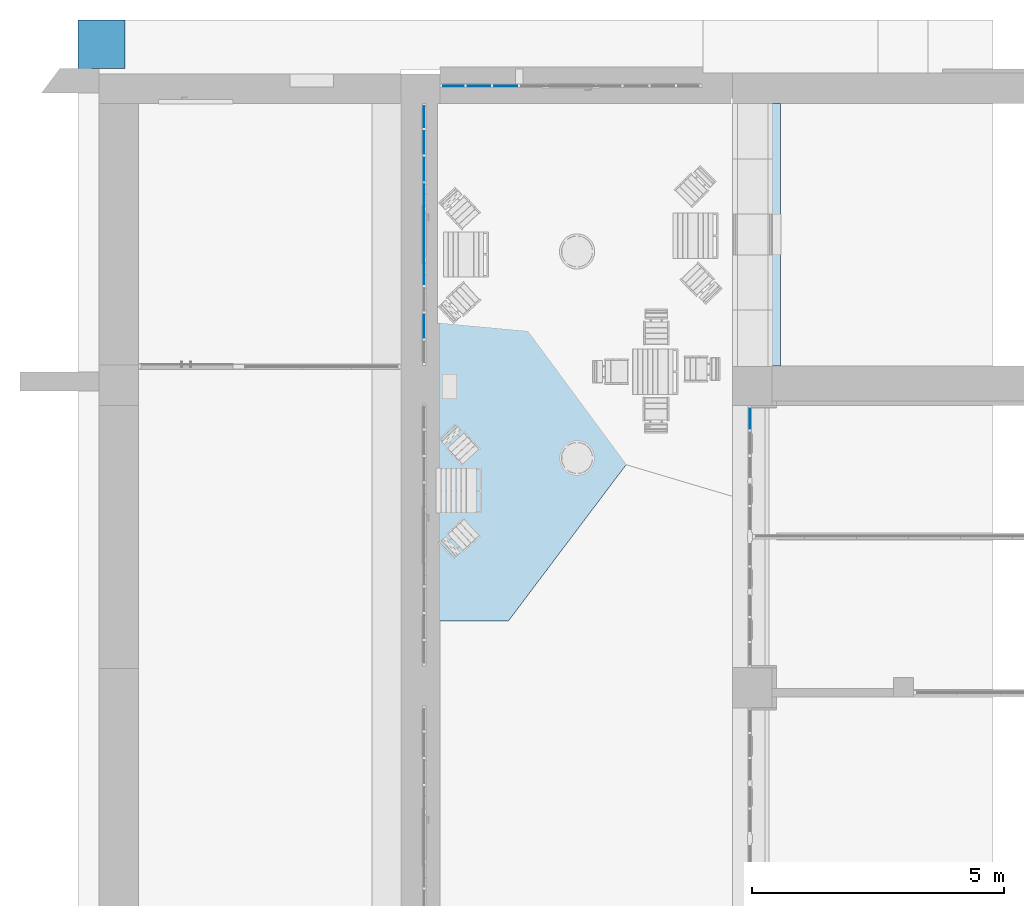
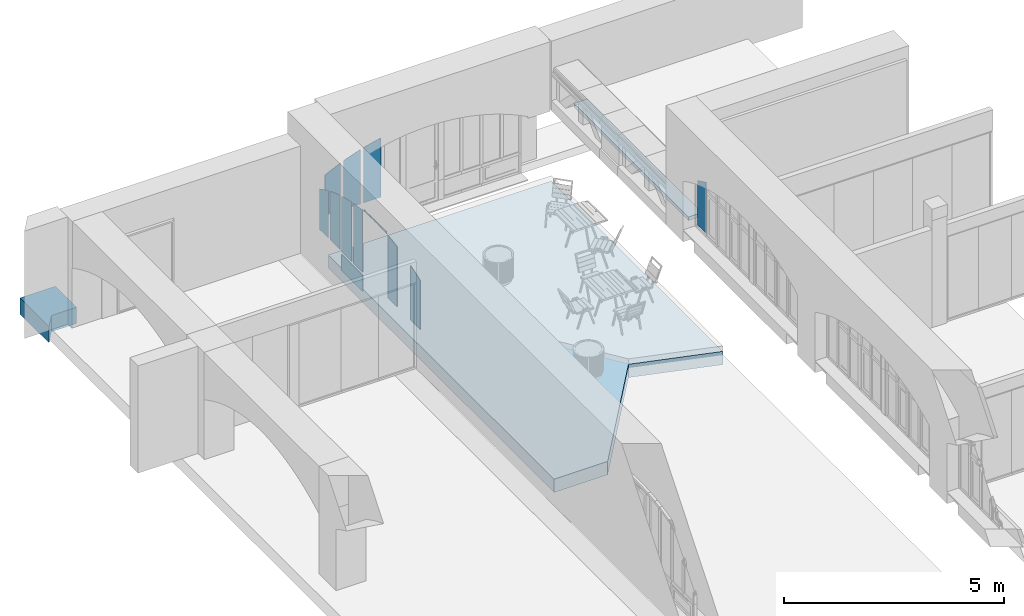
# One storey, part 66 of 88: 12 plates, 3 slabs, 3 openings, 3 elements without a shape of their own.
"""IFC2X3 building model written with IfcOpenShell, lengths in millimetres."""

import ifcopenshell
import ifcopenshell.guid

model = None  # the IFC model being written
_history = None  # IfcOwnerHistory: only IFC2X3 demands one
_inside = {}  # id of a spatial element -> (the spatial element, [elements in it])
_under = {}  # id of a project, library or spatial element -> (it, [spatial elements below it])
_declared = {}  # id of a project -> (the project, [libraries it declares])
_typed = {}  # id of a type object -> (the type object, [elements of that type])
_made_of = {}  # id of a material, layer set ... -> (it, [elements and type objects made of it])


def new_model(schema):
    """Start an empty IFC model of exactly this schema.

    Asked for "IFC4X3", IfcOpenShell would pick the latest addendum, in which some entities
    have other attributes; the version numbers below select the first issue.
    IFC2X3 requires an IfcOwnerHistory on every rooted entity: one is made here for all.
    """
    global model, _history
    if schema == "IFC4X3":
        model = ifcopenshell.file(schema_version=(4, 3, 0, 0))
    else:
        model = ifcopenshell.file(schema=schema)
    _inside.clear()
    _under.clear()
    _declared.clear()
    _typed.clear()
    _made_of.clear()
    _history = None
    if model.schema == "IFC2X3":
        org = make("IfcOrganization", Name="unknown")
        user = make(
            "IfcPersonAndOrganization",
            ThePerson=make("IfcPerson", FamilyName="unknown"),
            TheOrganization=org,
        )
        app = make(
            "IfcApplication",
            ApplicationDeveloper=org,
            Version="unknown",
            ApplicationFullName="unknown",
            ApplicationIdentifier="unknown",
        )
        _history = make(
            "IfcOwnerHistory",
            OwningUser=user,
            OwningApplication=app,
            ChangeAction="ADDED",
            CreationDate=0,
        )
    return model


def make(cls, **values):
    """One entity of the class cls with the attributes given. An attribute that is None is left unset."""
    return model.create_entity(
        cls, **{name: value for name, value in values.items() if value is not None}
    )


def entity(cls, *values):
    """Any entity or typed value of the class cls, its attributes in the order of the schema. None: left unset."""
    e = model.create_entity(cls)
    for i, value in enumerate(values):
        if value is not None:
            e[i] = value
    return e


def rooted(cls, **values):
    """An entity with a GlobalId (a new one), such as an element, a storey or a relation."""
    return make(cls, GlobalId=ifcopenshell.guid.new(), OwnerHistory=_history, **values)


def si_unit(unit_type, name, prefix=None):
    """IfcSIUnit, for example si_unit("LENGTHUNIT", "METRE", prefix="MILLI")."""
    return make("IfcSIUnit", UnitType=unit_type, Prefix=prefix, Name=name)


def converted_unit(unit_type, name, factor, base, dimensions=None, offset=None):
    """IfcConversionBasedUnit, such as the inch: factor (a typed value) times the base unit."""
    return make(
        "IfcConversionBasedUnit"
        if offset is None
        else "IfcConversionBasedUnitWithOffset",
        ConversionOffset=offset,
        Dimensions=None
        if dimensions is None
        else entity("IfcDimensionalExponents", *dimensions),
        UnitType=unit_type,
        Name=name,
        ConversionFactor=make(
            "IfcMeasureWithUnit", ValueComponent=factor, UnitComponent=base
        ),
    )


def derived_unit(unit_type, elements):
    """IfcDerivedUnit: a product of units, each with its exponent."""
    return make(
        "IfcDerivedUnit",
        Elements=[
            make("IfcDerivedUnitElement", Unit=unit, Exponent=power)
            for unit, power in elements
        ],
        UnitType=unit_type,
    )


def assignment(units):
    """IfcUnitAssignment: the units of a project."""
    return None if units is None else make("IfcUnitAssignment", Units=units)


def point(xyz):
    """IfcCartesianPoint."""
    return None if xyz is None else make("IfcCartesianPoint", Coordinates=xyz)


def direction(xyz):
    """IfcDirection."""
    return None if xyz is None else make("IfcDirection", DirectionRatios=xyz)


def frame(location, z_axis=None, x_axis=None):
    """IfcAxis2Placement3D, a coordinate frame: its origin and axes. An axis left out is left unset."""
    return make(
        "IfcAxis2Placement3D",
        Location=point(location),
        Axis=direction(z_axis),
        RefDirection=direction(x_axis),
    )


def frame_2d(location, x_axis=None):
    """IfcAxis2Placement2D, a coordinate frame in the plane: its origin and x axis."""
    return make(
        "IfcAxis2Placement2D", Location=point(location), RefDirection=direction(x_axis)
    )


def origin():
    """The frame at (0, 0, 0) with its axes left unset."""
    return frame((0.0, 0.0, 0.0))


def origin_2d_with_axis():
    """The frame at (0, 0) in the plane with the x axis (1, 0) written out."""
    return frame_2d((0.0, 0.0), x_axis=(1.0, 0.0))


def place(relative_to, where):
    """IfcLocalPlacement: puts the frame where relative to a parent placement (None: the world)."""
    return make(
        "IfcLocalPlacement", PlacementRelTo=relative_to, RelativePlacement=where
    )


def context(
    kind, dimensions, precision=None, world=None, true_north=None, identifier=None
):
    """IfcGeometricRepresentationContext, for example the 3D "Model" context."""
    return make(
        "IfcGeometricRepresentationContext",
        ContextIdentifier=identifier,
        ContextType=kind,
        CoordinateSpaceDimension=dimensions,
        Precision=precision,
        WorldCoordinateSystem=world,
        TrueNorth=true_north,
    )


def subcontext(parent, identifier, kind, view, scale=None):
    """IfcGeometricRepresentationSubContext, for example "Body" below "Model"."""
    return make(
        "IfcGeometricRepresentationSubContext",
        ContextIdentifier=identifier,
        ContextType=kind,
        ParentContext=parent,
        TargetScale=scale,
        TargetView=view,
    )


def project(units=None, contexts=None):
    """IfcProject with its units and contexts."""
    return rooted(
        "IfcProject",
        Name="project",
        RepresentationContexts=contexts,
        UnitsInContext=assignment(units),
    )


def spatial(cls, under=None, at=None, **own):
    """A site, building, storey or space (cls), placed at a placement, below another one or the project."""
    s = rooted(cls, ObjectPlacement=at, **own)
    if under is not None:
        _under.setdefault(under.id(), (under, []))[1].append(s)
    return s


def polyline(points):
    """IfcPolyline through the points."""
    return make("IfcPolyline", Points=[point(p) for p in points])


def circle_curve(where, radius):
    """IfcCircle in the frame where."""
    return make("IfcCircle", Position=where, Radius=radius)


def parameter(value):
    """IfcParameterValue: where a trimmed curve begins or ends, as a parameter of its basis curve."""
    return model.create_entity("IfcParameterValue", value)


def trimmed(basis, trim1, trim2, sense, master):
    """IfcTrimmedCurve: the piece of a basis curve between two trims."""
    return make(
        "IfcTrimmedCurve",
        BasisCurve=basis,
        Trim1=trim1,
        Trim2=trim2,
        SenseAgreement=sense,
        MasterRepresentation=master,
    )


def segment(curve, same_sense, transition):
    """IfcCompositeCurveSegment."""
    return make(
        "IfcCompositeCurveSegment",
        Transition=transition,
        SameSense=same_sense,
        ParentCurve=curve,
    )


def composite_curve(segments, self_intersect=None):
    """IfcCompositeCurve: segments joined end to end."""
    return make("IfcCompositeCurve", Segments=segments, SelfIntersect=self_intersect)


def profile(cls, at=None, kind="AREA", **sizes):
    """A parametric profile (cls). Its sizes go by their IFC names, for example OverallWidth=200.0."""
    return make(cls, ProfileType=kind, Position=at, **sizes)


def rectangle(**sizes):
    """IfcRectangleProfileDef."""
    return profile("IfcRectangleProfileDef", **sizes)


def outline(outer, holes=None, kind="AREA"):
    """IfcArbitraryClosedProfileDef: a profile drawn as a closed curve; with holes, ...WithVoids."""
    if holes is None:
        return make("IfcArbitraryClosedProfileDef", ProfileType=kind, OuterCurve=outer)
    return make(
        "IfcArbitraryProfileDefWithVoids",
        ProfileType=kind,
        OuterCurve=outer,
        InnerCurves=holes,
    )


def extrude(swept, where, along, depth):
    """IfcExtrudedAreaSolid: the profile swept, set in the frame where, extruded along a direction by depth."""
    return make(
        "IfcExtrudedAreaSolid",
        SweptArea=swept,
        Position=where,
        ExtrudedDirection=direction(along),
        Depth=depth,
    )


def faces_of(points, faces, orient=None, outer=None):
    """IfcFace entities. A face is a list of loops; a loop is a list of indices into points, from 0.

    orient and outer hold one flag for each loop. By default every Orientation is true, the
    first loop of a face is its IfcFaceOuterBound and the others are IfcFaceBound.
    """
    made = []
    for i, loops in enumerate(faces):
        bounds = []
        for j, loop in enumerate(loops):
            is_outer = j == 0 if outer is None else outer[i][j]
            bounds.append(
                make(
                    "IfcFaceOuterBound" if is_outer else "IfcFaceBound",
                    Bound=make("IfcPolyLoop", Polygon=[points[k] for k in loop]),
                    Orientation=True if orient is None else orient[i][j],
                )
            )
        made.append(make("IfcFace", Bounds=bounds))
    return made


def face_set(faces, orient=None, outer=None):
    """The faces of one IfcConnectedFaceSet. surface_model builds it on its shared points."""
    return ("IfcConnectedFaceSet", faces, orient, outer)


def surface_model(cls, points, shells):
    """IfcFaceBasedSurfaceModel or IfcShellBasedSurfaceModel (cls): surfaces that need not close."""
    shared = [point(p) for p in points]
    made = [make(c, CfsFaces=faces_of(shared, fs, o, b)) for c, fs, o, b in shells]
    if cls == "IfcFaceBasedSurfaceModel":
        return make(cls, FbsmFaces=made)
    return make(cls, SbsmBoundary=made)


def shape(context_of_items, identifier, shape_type, items):
    """IfcShapeRepresentation: the items that make up one representation, for example the "Body"."""
    return make(
        "IfcShapeRepresentation",
        ContextOfItems=context_of_items,
        RepresentationIdentifier=identifier,
        RepresentationType=shape_type,
        Items=items,
    )


def source(mapping_origin, context_of_items, identifier, shape_type, items):
    """IfcRepresentationMap: a shape defined once, which mapped items show again and again."""
    return make(
        "IfcRepresentationMap",
        MappingOrigin=mapping_origin,
        MappedRepresentation=shape(context_of_items, identifier, shape_type, items),
    )


def transform(
    local_origin,
    x_axis=None,
    y_axis=None,
    z_axis=None,
    scale=None,
    scale2=None,
    scale3=None,
    uniform=True,
):
    """IfcCartesianTransformationOperator3D, or its non-uniform kind. x_axis, y_axis, z_axis: its Axis1, 2, 3."""
    if uniform:
        return make(
            "IfcCartesianTransformationOperator3D",
            Axis1=direction(x_axis),
            Axis2=direction(y_axis),
            LocalOrigin=point(local_origin),
            Scale=scale,
            Axis3=direction(z_axis),
        )
    return make(
        "IfcCartesianTransformationOperator3DnonUniform",
        Axis1=direction(x_axis),
        Axis2=direction(y_axis),
        LocalOrigin=point(local_origin),
        Scale=scale,
        Axis3=direction(z_axis),
        Scale2=scale2,
        Scale3=scale3,
    )


def mapped(mapping_source, mapping_target):
    """IfcMappedItem: shows the shape of a source again, moved by a transform."""
    return make(
        "IfcMappedItem", MappingSource=mapping_source, MappingTarget=mapping_target
    )


def material(Name=None, Category=None):
    """IfcMaterial."""
    return make("IfcMaterial", Name=Name, Category=Category)


def layer(
    of_material, thickness, ventilated=None, Name=None, Category=None, Priority=None
):
    """IfcMaterialLayer: one layer of a wall or slab, of a material (None: an air gap)."""
    return make(
        "IfcMaterialLayer",
        Material=of_material,
        LayerThickness=thickness,
        IsVentilated=ventilated,
        Name=Name,
        Category=Category,
        Priority=Priority,
    )


def layer_set(layers, Name=None):
    """IfcMaterialLayerSet."""
    return make("IfcMaterialLayerSet", MaterialLayers=layers, LayerSetName=Name)


def layer_usage(for_layer_set, set_direction, sense, offset, extent=None):
    """IfcMaterialLayerSetUsage: how a layer set lies in its element."""
    return make(
        "IfcMaterialLayerSetUsage",
        ForLayerSet=for_layer_set,
        LayerSetDirection=set_direction,
        DirectionSense=sense,
        OffsetFromReferenceLine=offset,
        ReferenceExtent=extent,
    )


def made_of(thing, what):
    """Note that an element or type object is made of a material, layer set ...; save() writes the relation."""
    if what is not None:
        _made_of.setdefault(what.id(), (what, []))[1].append(thing)
    return thing


def type_object(cls, material=None, **own):
    """A type object (cls), such as IfcWallType, which elements share."""
    return made_of(rooted(cls, **own), material)


def type_shapes(of_type, sources):
    """Give a type object the sources (RepresentationMaps) that its elements show as mapped items."""
    of_type.RepresentationMaps = sources


def element(
    cls,
    number,
    at=None,
    inside=None,
    cuts=None,
    type_object=None,
    material=None,
    context=None,
    identifier="Body",
    shape_type=None,
    held_by="IfcProductDefinitionShape",
    body=None,
    shapes=None,
    **own,
):
    """One element of the class cls, such as IfcWall. Its Tag is "e" and its number.

    at: its placement. inside: the storey or other place that contains it. cuts: it is an
    opening in that element (IfcRelVoidsElement). A single representation is given by context,
    identifier, shape_type and body (its items); several are given by shapes. held_by: the class
    of the entity that holds the representations. save() writes the other relations.
    """
    e = rooted(cls, Tag="e%d" % number, ObjectPlacement=at, **own)
    if body is not None:
        shapes = [shape(context, identifier, shape_type, body)]
    if shapes is not None:
        e.Representation = make(held_by, Representations=shapes)
    if inside is not None:
        _inside.setdefault(inside.id(), (inside, []))[1].append(e)
    if cuts is not None:
        rooted(
            "IfcRelVoidsElement", RelatingBuildingElement=cuts, RelatedOpeningElement=e
        )
    if type_object is not None:
        _typed.setdefault(type_object.id(), (type_object, []))[1].append(e)
    return made_of(e, material)


def aggregate(whole, parts):
    """IfcRelAggregates: a whole, such as a stair, and the parts it consists of."""
    return rooted("IfcRelAggregates", RelatingObject=whole, RelatedObjects=parts)


def save(model, path):
    """Write the relations noted so far, then the file.

    IfcRelAggregates (storeys below a building ...), IfcRelContainedInSpatialStructure (elements
    in a storey), IfcRelDefinesByType, IfcRelAssociatesMaterial and IfcRelDeclares: one each for
    every whole, place, type object, material and project.
    """
    for whole, parts in _under.values():
        aggregate(whole, parts)
    for where, things in _inside.values():
        rooted(
            "IfcRelContainedInSpatialStructure",
            RelatedElements=things,
            RelatingStructure=where,
        )
    for kind, things in _typed.values():
        rooted("IfcRelDefinesByType", RelatedObjects=things, RelatingType=kind)
    for what, things in _made_of.values():
        rooted("IfcRelAssociatesMaterial", RelatedObjects=things, RelatingMaterial=what)
    for by, libraries in _declared.values():
        rooted("IfcRelDeclares", RelatingContext=by, RelatedDefinitions=libraries)
    model.write(path)


model = new_model("IFC2X3")

# Units and contexts
model_context = context("Model", 3, precision=0.01, world=origin(), true_north=direction((6.123031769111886e-17, 1.0)))
body_context = subcontext(model_context, "Body", "Model", "MODEL_VIEW")
ifc_project = project(units=[si_unit("LENGTHUNIT", "METRE", prefix="MILLI"), si_unit("AREAUNIT", "SQUARE_METRE"), si_unit("VOLUMEUNIT", "CUBIC_METRE"), converted_unit("PLANEANGLEUNIT", "DEGREE", entity("IfcPlaneAngleMeasure", 0.017453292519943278), si_unit("PLANEANGLEUNIT", "RADIAN"), dimensions=[0, 0, 0, 0, 0, 0, 0]), si_unit("MASSUNIT", "GRAM", prefix="KILO"), derived_unit("MASSDENSITYUNIT", [(si_unit("MASSUNIT", "GRAM", prefix="KILO"), 1), (si_unit("LENGTHUNIT", "METRE"), -3)]), derived_unit("IONCONCENTRATIONUNIT", [(si_unit("MASSUNIT", "GRAM", prefix="KILO"), 1), (si_unit("LENGTHUNIT", "METRE"), -3)]), derived_unit("MOMENTOFINERTIAUNIT", [(si_unit("LENGTHUNIT", "METRE"), 4)]), si_unit("TIMEUNIT", "SECOND"), si_unit("FREQUENCYUNIT", "HERTZ"), si_unit("THERMODYNAMICTEMPERATUREUNIT", "DEGREE_CELSIUS"), derived_unit("THERMALTRANSMITTANCEUNIT", [(si_unit("MASSUNIT", "GRAM", prefix="KILO"), 1), (si_unit("THERMODYNAMICTEMPERATUREUNIT", "KELVIN"), -1), (si_unit("TIMEUNIT", "SECOND"), -3)]), derived_unit("THERMALCONDUCTANCEUNIT", [(si_unit("MASSUNIT", "GRAM", prefix="KILO"), 1), (si_unit("THERMODYNAMICTEMPERATUREUNIT", "KELVIN"), -1), (si_unit("TIMEUNIT", "SECOND"), -3), (si_unit("LENGTHUNIT", "METRE"), 1)]), derived_unit("VOLUMETRICFLOWRATEUNIT", [(si_unit("LENGTHUNIT", "METRE", prefix="DECI"), 3), (si_unit("TIMEUNIT", "SECOND"), -1)]), derived_unit("MASSFLOWRATEUNIT", [(si_unit("MASSUNIT", "GRAM", prefix="KILO"), 1), (si_unit("TIMEUNIT", "SECOND"), -1)]), derived_unit("ROTATIONALFREQUENCYUNIT", [(si_unit("TIMEUNIT", "SECOND"), -1)]), si_unit("ELECTRICCURRENTUNIT", "AMPERE"), si_unit("ELECTRICVOLTAGEUNIT", "VOLT"), si_unit("POWERUNIT", "WATT"), si_unit("FORCEUNIT", "NEWTON", prefix="KILO"), si_unit("ILLUMINANCEUNIT", "LUX"), si_unit("LUMINOUSFLUXUNIT", "LUMEN"), si_unit("LUMINOUSINTENSITYUNIT", "CANDELA"), si_unit("ENERGYUNIT", "JOULE"), derived_unit("USERDEFINED", [(si_unit("MASSUNIT", "GRAM", prefix="KILO"), -1), (si_unit("LENGTHUNIT", "METRE"), -2), (si_unit("TIMEUNIT", "SECOND"), 3), (si_unit("LUMINOUSFLUXUNIT", "LUMEN"), 1)]), derived_unit("USERDEFINED", [(si_unit("MASSUNIT", "GRAM", prefix="KILO"), 1), (si_unit("TIMEUNIT", "SECOND"), -3), (si_unit("LENGTHUNIT", "METRE"), 3), (si_unit("ELECTRICCURRENTUNIT", "AMPERE"), -2)]), derived_unit("SOUNDPOWERUNIT", [(si_unit("MASSUNIT", "GRAM", prefix="KILO"), 1), (si_unit("TIMEUNIT", "SECOND"), -3), (si_unit("LENGTHUNIT", "METRE"), 2)]), derived_unit("SOUNDPRESSUREUNIT", [(si_unit("MASSUNIT", "GRAM", prefix="KILO"), 1), (si_unit("LENGTHUNIT", "METRE"), -1), (si_unit("TIMEUNIT", "SECOND"), -2)]), derived_unit("LINEARVELOCITYUNIT", [(si_unit("LENGTHUNIT", "METRE"), 1), (si_unit("TIMEUNIT", "SECOND"), -1)]), si_unit("PRESSUREUNIT", "PASCAL"), derived_unit("USERDEFINED", [(si_unit("MASSUNIT", "GRAM", prefix="KILO"), 1), (si_unit("LENGTHUNIT", "METRE"), -2), (si_unit("TIMEUNIT", "SECOND"), -2)]), derived_unit("LINEARFORCEUNIT", [(si_unit("MASSUNIT", "GRAM", prefix="KILO"), 1), (si_unit("TIMEUNIT", "SECOND"), -2)]), derived_unit("PLANARFORCEUNIT", [(si_unit("MASSUNIT", "GRAM", prefix="KILO"), 1), (si_unit("LENGTHUNIT", "METRE"), -1), (si_unit("TIMEUNIT", "SECOND"), -2)]), derived_unit("SPECIFICHEATCAPACITYUNIT", [(si_unit("THERMODYNAMICTEMPERATUREUNIT", "KELVIN"), -1), (si_unit("LENGTHUNIT", "METRE"), 2), (si_unit("TIMEUNIT", "SECOND"), -2)]), derived_unit("HEATFLUXDENSITYUNIT", [(si_unit("MASSUNIT", "GRAM", prefix="KILO"), 1), (si_unit("TIMEUNIT", "SECOND"), -3)]), derived_unit("HEATINGVALUEUNIT", [(si_unit("LENGTHUNIT", "METRE"), 2), (si_unit("TIMEUNIT", "SECOND"), -2)]), derived_unit("VAPORPERMEABILITYUNIT", [(si_unit("LENGTHUNIT", "METRE"), -1), (si_unit("TIMEUNIT", "SECOND"), 1)]), derived_unit("DYNAMICVISCOSITYUNIT", [(si_unit("MASSUNIT", "GRAM", prefix="KILO"), 1), (si_unit("TIMEUNIT", "SECOND"), -1), (si_unit("LENGTHUNIT", "METRE"), -1)]), derived_unit("THERMALEXPANSIONCOEFFICIENTUNIT", [(si_unit("THERMODYNAMICTEMPERATUREUNIT", "KELVIN"), -1)]), derived_unit("MODULUSOFELASTICITYUNIT", [(si_unit("MASSUNIT", "GRAM", prefix="KILO"), 1), (si_unit("LENGTHUNIT", "METRE"), -1), (si_unit("TIMEUNIT", "SECOND"), -2)]), derived_unit("ISOTHERMALMOISTURECAPACITYUNIT", [(si_unit("MASSUNIT", "GRAM", prefix="KILO"), -1), (si_unit("LENGTHUNIT", "METRE"), 3)]), derived_unit("MOISTUREDIFFUSIVITYUNIT", [(si_unit("TIMEUNIT", "SECOND"), -1), (si_unit("LENGTHUNIT", "METRE"), 2)]), derived_unit("MASSPERLENGTHUNIT", [(si_unit("MASSUNIT", "GRAM", prefix="KILO"), 1), (si_unit("LENGTHUNIT", "METRE"), -1)]), derived_unit("THERMALRESISTANCEUNIT", [(si_unit("MASSUNIT", "GRAM", prefix="KILO"), -1), (si_unit("TIMEUNIT", "SECOND"), 3), (si_unit("THERMODYNAMICTEMPERATUREUNIT", "KELVIN"), 1)]), derived_unit("ACCELERATIONUNIT", [(si_unit("LENGTHUNIT", "METRE"), 1), (si_unit("TIMEUNIT", "SECOND"), -2)]), derived_unit("ANGULARVELOCITYUNIT", [(si_unit("TIMEUNIT", "SECOND"), -1), (si_unit("PLANEANGLEUNIT", "RADIAN"), 1)]), derived_unit("LINEARSTIFFNESSUNIT", [(si_unit("MASSUNIT", "GRAM", prefix="KILO"), 1), (si_unit("TIMEUNIT", "SECOND"), -2)]), derived_unit("WARPINGCONSTANTUNIT", [(si_unit("LENGTHUNIT", "METRE"), 6)]), derived_unit("LINEARMOMENTUNIT", [(si_unit("MASSUNIT", "GRAM", prefix="KILO"), 1), (si_unit("LENGTHUNIT", "METRE"), 1), (si_unit("TIMEUNIT", "SECOND"), -2)]), derived_unit("TORQUEUNIT", [(si_unit("MASSUNIT", "GRAM", prefix="KILO"), 1), (si_unit("LENGTHUNIT", "METRE"), 2), (si_unit("TIMEUNIT", "SECOND"), -2)])], contexts=[model_context])

# Site, building, storey
site_placement = place(None, origin())
site = spatial("IfcSite", under=ifc_project, at=site_placement, Name="Default", CompositionType="ELEMENT")
building_placement = place(site_placement, origin())
building = spatial("IfcBuilding", under=site, at=building_placement, Name="Eesti Rahvusraamatukogu hoone renoveerimise projekteerimistööd", CompositionType="ELEMENT")
storey_placement = place(building_placement, origin())
storey = spatial("IfcBuildingStorey", under=building, at=storey_placement, Name="1. korrus", CompositionType="ELEMENT", Elevation=0.0)

# Curtain wall, plate
curtain_wall_type_1 = type_object("IfcCurtainWallType", Name="Curtain Wall:Ak-02", PredefinedType="NOTDEFINED")
curtain_wall_1_placement = place(storey_placement, origin())
curtain_wall_1 = element("IfcCurtainWall", 1, at=curtain_wall_1_placement, inside=storey, type_object=curtain_wall_type_1, Name="Curtain Wall:Ak-02", ObjectType="Curtain Wall:Ak-02")
ifc_material_1 = material(Name="EST. Klaas. 3x. Default")
plate_type_1 = type_object("IfcPlateType", Name="System Panel:Peegelaknad 6-16-4-16-4, paneel", PredefinedType="CURTAIN_PANEL", material=ifc_material_1)
shared_shape_1 = source(origin(), body_context, "Body", "SweptSolid", [
    extrude(outline(composite_curve([segment(polyline([(-838.8855000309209, -200.0), (351.11449996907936, -200.0)]), True, "CONTINUOUS"), segment(polyline([(351.11449996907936, -200.0), (392.3931648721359, -200.0)]), True, "CONTINUOUS"), segment(trimmed(circle_curve(frame_2d((-4419.029401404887, 2340.0), x_axis=(0.9248280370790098, -0.38038546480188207)), 5440.715680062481), [parameter(354.5275221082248)], [parameter(359.19566238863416)], True, "PARAMETER"), True, "CONTINUOUS"), segment(polyline([(583.1488352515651, 200.0), (351.11449996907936, 200.0)]), True, "CONTINUOUS"), segment(polyline([(351.11449996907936, 200.0), (-838.8855000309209, 200.0)]), True, "CONTINUOUS"), segment(polyline([(-838.8855000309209, 200.0), (-838.8855000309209, -200.0)]), True, "CONTINUOUS")], self_intersect=False)), frame((0.0, -5.0, 838.8855000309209), z_axis=(0.0, 1.0, 0.0), x_axis=(0.0, 0.0, 1.0)), (0.0, 0.0, 1.0), 10.0),
])
type_shapes(plate_type_1, [shared_shape_1])
plate_1_placement = place(curtain_wall_1_placement, frame((-36440.0, 47730.0, 2040.0), z_axis=(0.0, 0.0, 1.0), x_axis=(0.0, -1.0, 0.0)))
plate_1 = element("IfcPlate", 2, at=plate_1_placement, type_object=plate_type_1, material=ifc_material_1, Name="System Panel:Peegelaknad 6-16-4-16-4, paneel", ObjectType="System Panel:Peegelaknad 6-16-4-16-4, paneel", context=body_context, shape_type="MappedRepresentation", body=[
    mapped(shared_shape_1, transform((0.0, 0.0, 0.0), scale=1.0)),
])
aggregate(curtain_wall_1, [plate_1])

# Curtain wall, plates
curtain_wall_type_2 = type_object("IfcCurtainWallType", Name="Curtain Wall:Ak-05", PredefinedType="NOTDEFINED")
curtain_wall_2_placement = place(storey_placement, origin())
curtain_wall_2 = element("IfcCurtainWall", 3, at=curtain_wall_2_placement, inside=storey, type_object=curtain_wall_type_2, Name="Curtain Wall:Ak-05", ObjectType="Curtain Wall:Ak-05")
plate_type_2 = type_object("IfcPlateType", Name="System Panel:Peegelaknad 6-16-4-16-4, paneel", PredefinedType="CURTAIN_PANEL", material=ifc_material_1)
shared_shape_2 = source(origin(), body_context, "Body", "SweptSolid", [
    extrude(rectangle(XDim=450.00000000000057, YDim=944.9999999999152, at=frame_2d((0.0, -5.833333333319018), x_axis=(1.0, 0.0))), frame((5.833333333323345, -5.0, 225.0), z_axis=(0.0, 1.0, 0.0), x_axis=(0.0, 0.0, 1.0)), (0.0, 0.0, 1.0), 10.0),
])
type_shapes(plate_type_2, [shared_shape_2])
plate_2_placement = place(curtain_wall_2_placement, frame((-42905.0, 52437.49999999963, 10.0), z_axis=(0.0, 0.0, 1.0), x_axis=(0.0, -1.0, 0.0)))
plate_2 = element("IfcPlate", 4, at=plate_2_placement, type_object=plate_type_2, material=ifc_material_1, Name="System Panel:Peegelaknad 6-16-4-16-4, paneel", ObjectType="System Panel:Peegelaknad 6-16-4-16-4, paneel", context=body_context, shape_type="MappedRepresentation", body=[
    mapped(shared_shape_2, transform((0.0, 0.0, 0.0), scale=1.0)),
])
plate_type_3 = type_object("IfcPlateType", Name="System Panel:Peegelaknad 6-16-4-16-4, paneel", PredefinedType="CURTAIN_PANEL", material=ifc_material_1)
shared_shape_3 = source(origin(), body_context, "Body", "SweptSolid", [
    extrude(outline(composite_curve([segment(polyline([(-610.3301409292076, -205.0), (513.3133718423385, -205.0)]), True, "CONTINUOUS"), segment(trimmed(circle_curve(frame_2d((-4323.610707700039, 2335.0), x_axis=(0.9256428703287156, -0.37839830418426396)), 5463.280566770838), [parameter(354.5293230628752)], [parameter(359.2877436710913)], True, "PARAMETER"), True, "CONTINUOUS"), segment(polyline([(707.3469100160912, 205.0), (-610.3301409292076, 205.0)]), True, "CONTINUOUS"), segment(polyline([(-610.3301409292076, 205.0), (-610.3301409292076, -205.0)]), True, "CONTINUOUS")], self_intersect=False)), frame((0.0, -5.0, 610.3301409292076), z_axis=(0.0, 1.0, 0.0), x_axis=(0.0, 0.0, 1.0)), (0.0, 0.0, 1.0), 10.0),
])
type_shapes(plate_type_3, [shared_shape_3])
plate_3_placement = place(curtain_wall_2_placement, frame((-42905.0, 53725.0, 540.0), z_axis=(0.0, 0.0, 1.0), x_axis=(0.0, -1.0, 0.0)))
plate_3 = element("IfcPlate", 5, at=plate_3_placement, type_object=plate_type_3, material=ifc_material_1, Name="System Panel:Peegelaknad 6-16-4-16-4, paneel", ObjectType="System Panel:Peegelaknad 6-16-4-16-4, paneel", context=body_context, shape_type="MappedRepresentation", body=[
    mapped(shared_shape_3, transform((0.0, 0.0, 0.0), scale=1.0)),
])
plate_type_4 = type_object("IfcPlateType", Name="System Panel:Peegelaknad 6-16-4-16-4, paneel", PredefinedType="CURTAIN_PANEL", material=ifc_material_1)
shared_shape_4 = source(origin(), body_context, "Body", "SweptSolid", [
    extrude(outline(composite_curve([segment(polyline([(-715.3148161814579, -225.0), (635.487411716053, -225.0)]), True, "CONTINUOUS"), segment(trimmed(circle_curve(frame_2d((-4428.595382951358, 1825.0), x_axis=(0.9592847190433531, -0.2824408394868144)), 5463.280566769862), [parameter(354.3672571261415)], [parameter(359.3764184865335)], True, "PARAMETER"), True, "CONTINUOUS"), segment(polyline([(795.1422206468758, 225.0), (-715.3148161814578, 225.0)]), True, "CONTINUOUS"), segment(polyline([(-715.3148161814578, 225.0), (-715.3148161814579, -225.0)]), True, "CONTINUOUS")], self_intersect=False)), frame((0.0, -5.0, 715.3148161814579), z_axis=(0.0, 1.0, 0.0), x_axis=(0.0, 0.0, 1.0)), (0.0, 0.0, 1.0), 10.0),
])
type_shapes(plate_type_4, [shared_shape_4])
plate_4_placement = place(curtain_wall_2_placement, frame((-42905.0, 53215.0, 540.0), z_axis=(0.0, 0.0, 1.0), x_axis=(0.0, -1.0, 0.0)))
plate_4 = element("IfcPlate", 6, at=plate_4_placement, type_object=plate_type_4, material=ifc_material_1, Name="System Panel:Peegelaknad 6-16-4-16-4, paneel", ObjectType="System Panel:Peegelaknad 6-16-4-16-4, paneel", context=body_context, shape_type="MappedRepresentation", body=[
    mapped(shared_shape_4, transform((0.0, 0.0, 0.0), scale=1.0)),
])
plate_type_5 = type_object("IfcPlateType", Name="System Panel:Peegelaknad 6-16-4-16-4, paneel", PredefinedType="CURTAIN_PANEL", material=ifc_material_1)
shared_shape_5 = source(origin(), body_context, "Body", "SweptSolid", [
    extrude(outline(composite_curve([segment(polyline([(-794.6219170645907, -225.0), (739.6716748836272, -225.0)]), True, "CONTINUOUS"), segment(trimmed(circle_curve(frame_2d((-4507.902483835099, 1295.0), x_axis=(0.9824581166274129, -0.18648337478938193)), 5463.2805667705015), [parameter(354.5935648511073)], [parameter(359.45306970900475)], True, "PARAMETER"), True, "CONTINUOUS"), segment(polyline([(849.5721592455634, 225.0), (-794.6219170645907, 225.0)]), True, "CONTINUOUS"), segment(polyline([(-794.6219170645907, 225.0), (-794.6219170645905, -225.0)]), True, "CONTINUOUS")], self_intersect=False)), frame((0.0, -5.0, 794.6219170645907), z_axis=(0.0, 1.0, 0.0), x_axis=(0.0, 0.0, 1.0)), (0.0, 0.0, 1.0), 10.0),
])
type_shapes(plate_type_5, [shared_shape_5])
plate_5_placement = place(curtain_wall_2_placement, frame((-42905.0, 52685.0, 540.0), z_axis=(0.0, 0.0, 1.0), x_axis=(0.0, -1.0, 0.0)))
plate_5 = element("IfcPlate", 7, at=plate_5_placement, type_object=plate_type_5, material=ifc_material_1, Name="System Panel:Peegelaknad 6-16-4-16-4, paneel", ObjectType="System Panel:Peegelaknad 6-16-4-16-4, paneel", context=body_context, shape_type="MappedRepresentation", body=[
    mapped(shared_shape_5, transform((0.0, 0.0, 0.0), scale=1.0)),
])
plate_type_6 = type_object("IfcPlateType", Name="System Panel:Peegelaknad 6-16-4-16-4, paneel", PredefinedType="CURTAIN_PANEL", material=ifc_material_1)
shared_shape_6 = source(origin(), body_context, "Body", "SurfaceModel", [
    surface_model("IfcFaceBasedSurfaceModel", [(-245.0, -5.0, 0.0), (170.0, -5.0, 0.0), (170.0, -5.0, 1750.0), (245.0, -5.0, 1750.0), (245.0, -5.0, 1727.0718621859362), (93.20177957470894, -5.0, 1710.979164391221), (-58.08758672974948, -5.0, 1690.6517865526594), (-151.67863011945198, -5.0, 1675.9125069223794), (-245.0, -5.0, 1659.5524430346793), (-245.0, 5.0, 0.0), (-245.0, 5.0, 1659.5524430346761), (-151.67863011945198, 5.0, 1675.9125069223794), (-58.08758672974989, 5.0, 1690.6517865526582), (93.20177957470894, 5.0, 1710.979164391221), (245.0, 5.0, 1727.071862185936), (245.0, 5.0, 1750.0), (170.0, 5.0, 1750.0), (170.0, 5.0, 0.0)], [face_set([[[0, 1, 2, 3, 4, 5, 6, 7, 8]], [[9, 10, 11, 12, 13, 14, 15, 16, 17]], [[1, 0, 9, 17]], [[2, 1, 17, 16]], [[3, 15, 16, 2]], [[4, 14, 15, 3]], [[5, 4, 14, 13]], [[12, 6, 5, 13]], [[7, 6, 12, 11]], [[10, 8, 7, 11]], [[0, 8, 10, 9]]])]),
])
type_shapes(plate_type_6, [shared_shape_6])
plate_6_placement = place(curtain_wall_2_placement, frame((-42905.0, 52135.0, 540.0), z_axis=(0.0, 0.0, 1.0), x_axis=(0.0, -1.0, 0.0)))
plate_6 = element("IfcPlate", 8, at=plate_6_placement, type_object=plate_type_6, material=ifc_material_1, Name="System Panel:Peegelaknad 6-16-4-16-4, paneel", ObjectType="System Panel:Peegelaknad 6-16-4-16-4, paneel", context=body_context, shape_type="MappedRepresentation", body=[
    mapped(shared_shape_6, transform((0.0, 0.0, 0.0), scale=1.0)),
])
plate_type_7 = type_object("IfcPlateType", Name="System Panel:Peegelaknad 6-16-4-16-4, paneel", PredefinedType="CURTAIN_PANEL", material=ifc_material_1)
shared_shape_7 = source(origin(), body_context, "Body", "SurfaceModel", [
    surface_model("IfcFaceBasedSurfaceModel", [(-170.0, -5.0, 0.0), (245.0, -5.0, 0.0), (245.0, -5.0, 1659.5524430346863), (151.67863011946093, -5.0, 1675.9125069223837), (58.08758672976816, -5.0, 1690.6517865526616), (-93.2017795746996, -5.0, 1710.979164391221), (-245.0, -5.0, 1727.071862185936), (-245.0, -5.0, 1750.0), (-170.0, -5.0, 1750.0), (-170.0, 5.0, 0.0), (245.0, 5.0, 0.0), (245.0, 5.0, 1659.552443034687), (151.67863011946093, 5.0, 1675.9125069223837), (58.08758672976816, 5.0, 1690.6517865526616), (-93.2017795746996, 5.0, 1710.979164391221), (-245.0, 5.0, 1727.071862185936), (-245.0, 5.0, 1750.0), (-170.0, 5.0, 1750.0)], [face_set([[[0, 1, 2, 3, 4, 5, 6, 7, 8]], [[9, 10, 11, 12, 13, 14, 15, 16, 17]], [[1, 0, 9, 10]], [[2, 1, 10, 11]], [[3, 2, 11, 12]], [[13, 4, 3, 12]], [[4, 13, 14, 5]], [[15, 6, 5, 14]], [[7, 16, 15, 6]], [[8, 17, 16, 7]], [[0, 8, 17, 9]]])]),
])
type_shapes(plate_type_7, [shared_shape_7])
plate_7_placement = place(curtain_wall_2_placement, frame((-42905.0, 50645.0, 540.0), z_axis=(0.0, 0.0, 1.0), x_axis=(0.0, -1.0, 0.0)))
plate_7 = element("IfcPlate", 9, at=plate_7_placement, type_object=plate_type_7, material=ifc_material_1, Name="System Panel:Peegelaknad 6-16-4-16-4, paneel", ObjectType="System Panel:Peegelaknad 6-16-4-16-4, paneel", context=body_context, shape_type="MappedRepresentation", body=[
    mapped(shared_shape_7, transform((0.0, 0.0, 0.0), scale=1.0)),
])

# Curtain wall, plate
curtain_wall_3_placement = place(storey_placement, origin())
curtain_wall_3 = element("IfcCurtainWall", 10, at=curtain_wall_3_placement, inside=storey, type_object=curtain_wall_type_2, Name="Curtain Wall:Ak-05", ObjectType="Curtain Wall:Ak-05")
plate_type_8 = type_object("IfcPlateType", Name="System Panel:Peegelaknad 6-16-4-16-4, paneel", PredefinedType="CURTAIN_PANEL", material=ifc_material_1)
shared_shape_8 = source(origin(), body_context, "Body", "SweptSolid", [
    extrude(outline(composite_curve([segment(polyline([(-794.621917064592, 225.0), (-794.621917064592, -225.0)]), True, "CONTINUOUS"), segment(polyline([(-794.621917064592, -225.0), (739.6716748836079, -225.0)]), True, "CONTINUOUS"), segment(trimmed(circle_curve(frame_2d((-4507.902483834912, 1295.0), x_axis=(0.9592847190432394, -0.2824408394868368)), 5463.280566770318), [parameter(0.25187197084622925)], [parameter(5.111376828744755)], True, "PARAMETER"), True, "CONTINUOUS"), segment(polyline([(849.5721592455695, 225.0), (-794.621917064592, 225.0)]), True, "CONTINUOUS")], self_intersect=False)), frame((0.0, -5.0, 794.621917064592), z_axis=(0.0, -1.0, 0.0), x_axis=(0.0, 0.0, 1.0)), (0.0, 0.0, -1.0), 10.0),
])
type_shapes(plate_type_8, [shared_shape_8])
plate_8_placement = place(curtain_wall_3_placement, frame((-41285.0, 54340.0, 540.0), z_axis=(0.0, 0.0, 1.0), x_axis=(-1.0, 0.0, 0.0)))
plate_8 = element("IfcPlate", 11, at=plate_8_placement, type_object=plate_type_8, material=ifc_material_1, Name="System Panel:Peegelaknad 6-16-4-16-4, paneel", ObjectType="System Panel:Peegelaknad 6-16-4-16-4, paneel", context=body_context, shape_type="MappedRepresentation", body=[
    mapped(shared_shape_8, transform((0.0, 0.0, 0.0), scale=1.0)),
])

# Plate
plate_type_9 = type_object("IfcPlateType", Name="System Panel:Peegelaknad 6-16-4-16-4, paneel", PredefinedType="CURTAIN_PANEL", material=ifc_material_1)
shared_shape_9 = source(origin(), body_context, "Body", "SweptSolid", [
    extrude(outline(composite_curve([segment(polyline([(-715.3148161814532, 225.0), (-715.3148161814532, -225.0)]), True, "CONTINUOUS"), segment(polyline([(-715.3148161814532, -225.0), (635.4874117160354, -225.0)]), True, "CONTINUOUS"), segment(trimmed(circle_curve(frame_2d((-4428.59538295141, 1825.0), x_axis=(0.9256428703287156, -0.3783983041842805)), 5463.280566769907), [parameter(0.19582649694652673)], [parameter(5.204987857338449)], True, "PARAMETER"), True, "CONTINUOUS"), segment(polyline([(795.1422206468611, 225.0), (-715.3148161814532, 225.0)]), True, "CONTINUOUS")], self_intersect=False)), frame((0.0, -5.0, 715.3148161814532), z_axis=(0.0, -1.0, 0.0), x_axis=(0.0, 0.0, 1.0)), (0.0, 0.0, -1.0), 10.0),
])
type_shapes(plate_type_9, [shared_shape_9])
plate_9_placement = place(curtain_wall_2_placement, frame((-42905.0, 49565.0, 540.0), z_axis=(0.0, 0.0, 1.0), x_axis=(0.0, -1.0, 0.0)))
plate_9 = element("IfcPlate", 12, at=plate_9_placement, type_object=plate_type_9, material=ifc_material_1, Name="System Panel:Peegelaknad 6-16-4-16-4, paneel", ObjectType="System Panel:Peegelaknad 6-16-4-16-4, paneel", context=body_context, shape_type="MappedRepresentation", body=[
    mapped(shared_shape_9, transform((0.0, 0.0, 0.0), scale=1.0)),
])

plate_10_placement = place(curtain_wall_3_placement, frame((-41815.0, 54340.0, 540.0), z_axis=(0.0, 0.0, 1.0), x_axis=(-1.0, 0.0, 0.0)))
plate_10 = element("IfcPlate", 13, at=plate_10_placement, type_object=plate_type_9, material=ifc_material_1, Name="System Panel:Peegelaknad 6-16-4-16-4, paneel", ObjectType="System Panel:Peegelaknad 6-16-4-16-4, paneel", context=body_context, shape_type="MappedRepresentation", body=[
    mapped(shared_shape_9, transform((0.0, 0.0, 0.0), scale=1.0)),
])

plate_type_10 = type_object("IfcPlateType", Name="System Panel:Peegelaknad 6-16-4-16-4, paneel", PredefinedType="CURTAIN_PANEL", material=ifc_material_1)
shared_shape_10 = source(origin(), body_context, "Body", "SweptSolid", [
    extrude(outline(composite_curve([segment(polyline([(-610.3301409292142, 205.0), (-610.3301409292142, -205.0)]), True, "CONTINUOUS"), segment(polyline([(-610.3301409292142, -205.0), (513.3133718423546, -205.0)]), True, "CONTINUOUS"), segment(trimmed(circle_curve(frame_2d((-4323.610707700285, 2335.0), x_axis=(0.8822747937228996, -0.4707347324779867)), 5463.280566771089), [parameter(0.37681807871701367)], [parameter(5.135238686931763)], True, "PARAMETER"), True, "CONTINUOUS"), segment(polyline([(707.3469100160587, 205.0), (-610.3301409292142, 205.0)]), True, "CONTINUOUS")], self_intersect=False)), frame((0.0, -5.0, 610.3301409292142), z_axis=(0.0, -1.0, 0.0), x_axis=(0.0, 0.0, 1.0)), (0.0, 0.0, -1.0), 10.0),
])
type_shapes(plate_type_10, [shared_shape_10])
plate_11_placement = place(curtain_wall_3_placement, frame((-42325.0, 54340.0, 540.0), z_axis=(0.0, 0.0, 1.0), x_axis=(-1.0, 0.0, 0.0)))
plate_11 = element("IfcPlate", 14, at=plate_11_placement, type_object=plate_type_10, material=ifc_material_1, Name="System Panel:Peegelaknad 6-16-4-16-4, paneel", ObjectType="System Panel:Peegelaknad 6-16-4-16-4, paneel", context=body_context, shape_type="MappedRepresentation", body=[
    mapped(shared_shape_10, transform((0.0, 0.0, 0.0), scale=1.0)),
])

aggregate(curtain_wall_3, [plate_8, plate_10, plate_11])

ifc_material_2 = material(Name="<Unnamed>")
plate_type_11 = type_object("IfcPlateType", Name="System Panel:Peegelaknad 6-16-4-16-4, paneel", PredefinedType="CURTAIN_PANEL", material=ifc_material_2)
shared_shape_11 = source(origin(), body_context, "Body", "SweptSolid", [
    extrude(outline(composite_curve([segment(polyline([(18.907544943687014, -500.34273422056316), (71.61836514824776, -495.5513663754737)]), True, "CONTINUOUS"), segment(polyline([(71.61836514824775, -495.5513663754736), (-18.907544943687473, 500.3427342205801)]), True, "CONTINUOUS"), segment(polyline([(-18.907544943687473, 500.3427342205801), (-71.61836514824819, 495.5513663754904)]), True, "CONTINUOUS"), segment(trimmed(circle_curve(frame_2d((-5444.3702992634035, -494.8885387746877), x_axis=(1.0, 0.0)), 5463.280566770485), [parameter(359.94279949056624)], [parameter(10.444926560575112)], True, "PARAMETER"), False, "CONTINUOUS")], self_intersect=False)), frame((0.0, -5.0, 26.46406890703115), z_axis=(0.0, -1.0, 0.0), x_axis=(0.0905259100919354, 0.0, 0.9958941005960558)), (0.0, 0.0, -1.0), 10.0),
])
type_shapes(plate_type_11, [shared_shape_11])
plate_12_placement = place(curtain_wall_2_placement, frame((-42905.0, 51390.0, 2267.0718621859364), z_axis=(0.0, 0.0, 1.0), x_axis=(0.0, -1.0, 0.0)))
plate_12 = element("IfcPlate", 15, at=plate_12_placement, type_object=plate_type_11, material=ifc_material_2, Name="System Panel:Peegelaknad 6-16-4-16-4, paneel", ObjectType="System Panel:Peegelaknad 6-16-4-16-4, paneel", context=body_context, shape_type="MappedRepresentation", body=[
    mapped(shared_shape_11, transform((0.0, 0.0, 0.0), scale=1.0)),
])

aggregate(curtain_wall_2, [plate_2, plate_3, plate_4, plate_5, plate_6, plate_7, plate_9, plate_12])

# Slab
ifc_material_3 = material(Name="ol. olev materjal")
ifc_layer_1 = layer(ifc_material_3, 100.0)
ifc_layer_set_1 = layer_set([ifc_layer_1], Name="Floor:ol. olev - 100mm")
ifc_layer_usage_1 = layer_usage(ifc_layer_set_1, "AXIS3", "POSITIVE", 0.0)
slab_type_1 = type_object("IfcSlabType", Name="Floor:ol. olev - 100mm", PredefinedType="FLOOR", material=ifc_layer_set_1)
slab_1_placement = place(storey_placement, origin())
element("IfcSlab", 16, at=slab_1_placement, inside=storey, type_object=slab_type_1, material=ifc_layer_usage_1, Name="Floor:ol. olev - 100mm", ObjectType="Floor:ol. olev - 100mm", PredefinedType="FLOOR", context=body_context, shape_type="SweptSolid", body=[
    extrude(rectangle(XDim=5210.376279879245, YDim=362.77347722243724, at=frame_2d((0.0, 2.1742607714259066e-12), x_axis=(1.0, 0.0))), frame((-36008.88673861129, 51385.18813993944, 1650.0), z_axis=(0.0, 0.0, -1.0), x_axis=(0.0, 1.0, 0.0)), (0.0, 0.0, 1.0), 100.0),
])

# Slab, openings
ifc_layer_2 = layer(ifc_material_3, 450.00000000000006)
ifc_layer_set_2 = layer_set([ifc_layer_2], Name="Floor:ol. olev - 450mm")
ifc_layer_usage_2 = layer_usage(ifc_layer_set_2, "AXIS3", "POSITIVE", 0.0)
slab_type_2 = type_object("IfcSlabType", Name="Floor:ol. olev - 450mm", PredefinedType="FLOOR", material=ifc_layer_set_2)
slab_2_placement = place(storey_placement, origin())
slab_2 = element("IfcSlab", 17, at=slab_2_placement, inside=storey, type_object=slab_type_2, material=ifc_layer_usage_2, Name="Floor:ol. olev - 450mm", ObjectType="Floor:ol. olev - 450mm", PredefinedType="FLOOR", context=body_context, shape_type="SweptSolid", body=[
    extrude(outline(polyline([(-670.6881184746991, -426.2420816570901), (650.4448833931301, -426.2420816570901), (650.4448833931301, 505.385999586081), (-315.100824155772, 505.385999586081), (-315.100824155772, -158.28783585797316), (-670.6881184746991, -426.2420816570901)])), frame((-49355.38599958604, 54995.4771040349, 0.0), z_axis=(0.0, 0.0, -1.0), x_axis=(0.0, 1.0, 0.0)), (0.0, 0.0, 1.0), 450.00000000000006),
])
opening_1_placement = place(slab_2_placement, origin())
element("IfcOpeningElement", 18, at=opening_1_placement, cuts=slab_2, Name="Floor:ol. olev - 450mm", ObjectType="Opening", context=body_context, shape_type="SweptSolid", body=[
    extrude(rectangle(XDim=2114.9999999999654, YDim=1987.4400010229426, at=origin_2d_with_axis()), frame((-44249.86691124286, -12794.641848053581, 0.0), z_axis=(0.0, 0.0, -1.0), x_axis=(0.0, -1.0, 0.0)), (0.0, 0.0, 1.0), 450.00000000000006),
])
opening_2_placement = place(slab_2_placement, origin())
element("IfcOpeningElement", 19, at=opening_2_placement, cuts=slab_2, Name="Floor:ol. olev - 450mm", ObjectType="Opening", context=body_context, shape_type="SweptSolid", body=[
    extrude(rectangle(XDim=1375.000000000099, YDim=5600.000000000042, at=frame_2d((0.0, -1.1368683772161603e-12), x_axis=(1.0, 0.0))), frame((14609.13825255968, -12132.500000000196, 0.0), z_axis=(0.0, 0.0, -1.0), x_axis=(0.0, -1.0, 0.0)), (0.0, 0.0, 1.0), 450.00000000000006),
])
opening_3_placement = place(slab_2_placement, origin())
element("IfcOpeningElement", 20, at=opening_3_placement, cuts=slab_2, Name="Floor:ol. olev - 450mm", ObjectType="Opening", context=body_context, shape_type="SweptSolid", body=[
    extrude(outline(polyline([(-1278.3794175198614, 1034.3334931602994), (-1278.3794175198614, -2130.6669863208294), (1156.258835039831, -2130.6669863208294), (1156.258835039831, 1096.3334931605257), (122.12058248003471, 1096.3334931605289), (122.12058248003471, 1034.3334931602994), (-1278.3794175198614, 1034.3334931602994)])), frame((10252.879417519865, -8411.333493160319, 0.0)), (0.0, 0.0, -1.0), 450.00000000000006),
])

# Slab
ifc_material_4 = material(Name="EST. Betoonplaat tume")
ifc_layer_3 = layer(ifc_material_4, 20.0)
ifc_material_5 = material(Name="EST. Betoonplaat")
ifc_layer_4 = layer(ifc_material_5, 150.0)
ifc_material_6 = material(Name="EST. Soojustus. XPS. Default")
ifc_layer_5 = layer(ifc_material_6, 200.0)
ifc_layer_set_3 = layer_set([ifc_layer_3, ifc_layer_4, ifc_layer_5], Name="Floor:P-03 - Amfiteatri lava")
ifc_layer_usage_3 = layer_usage(ifc_layer_set_3, "AXIS3", "POSITIVE", 0.0)
slab_type_3 = type_object("IfcSlabType", Name="Floor:P-03 - Amfiteatri lava", PredefinedType="FLOOR", material=ifc_layer_set_3)
slab_3_placement = place(storey_placement, origin())
element("IfcSlab", 21, at=slab_3_placement, inside=storey, type_object=slab_type_3, material=ifc_layer_usage_3, Name="Floor:P-03 - Amfiteatri lava", ObjectType="Floor:P-03 - Amfiteatri lava", PredefinedType="FLOOR", context=body_context, shape_type="SweptSolid", body=[
    extrude(outline(polyline([(-4352.41614917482, -2812.2303018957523), (5920.562453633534, -2812.2303018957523), (5920.56245363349, 3047.596275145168), (-1882.7851935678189, 3047.596275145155), (-1253.5074153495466, 932.2316403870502), (-4352.41614917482, -1402.9635868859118), (-4352.41614917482, -2812.2303018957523)])), frame((-39827.76969810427, 48069.81382624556, -300.0), z_axis=(0.0, 0.0, -1.0), x_axis=(0.0, 1.0, 0.0)), (0.0, 0.0, 1.0), 370.00000000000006),
])

save(model, "model.ifc")
